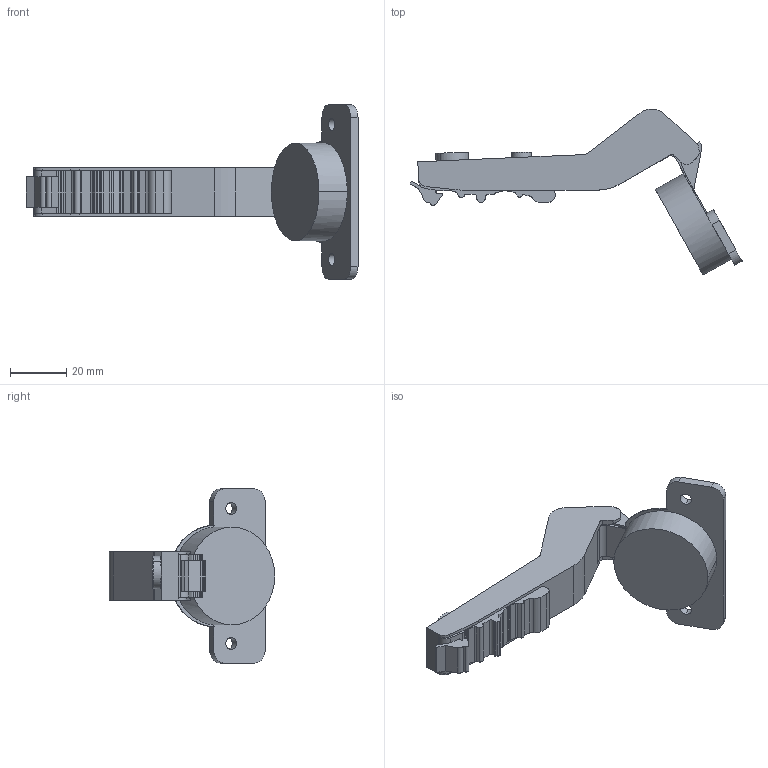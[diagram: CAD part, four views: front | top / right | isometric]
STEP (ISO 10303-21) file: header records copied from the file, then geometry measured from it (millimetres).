
FILE_DESCRIPTION (( 'STEP AP203' ), '1' );
FILE_NAME ('C82E676FA-DTC 3D open.STEP', '2024-09-07T00:29:34', ( '微软用户' ), ( '微软中国' ), 'SwSTEP 2.0', 'SolidWorks 2021', '' );
FILE_SCHEMA (( 'CONFIG_CONTROL_DESIGN' ));
Length unit declared in the file: millimetre
Products named in the file (1): C82E676FA-DTC 3D open
Bounding box: 118.16 x 58.93 x 61.96 mm (x, y, z)
Volume: 40279.7 mm3; surface area: 12775 mm2
Topology: 1 solids, 1 shells, 155 faces, 452 edges, 300 vertices
Faces by surface type: cylinder 79, plane 76
Entity records: 5263 total; most frequent: CARTESIAN_POINT 944, DIRECTION 906, ORIENTED_EDGE 904, EDGE_CURVE 452, AXIS2_PLACEMENT_3D 310, VERTEX_POINT 300, LINE 286, VECTOR 286
